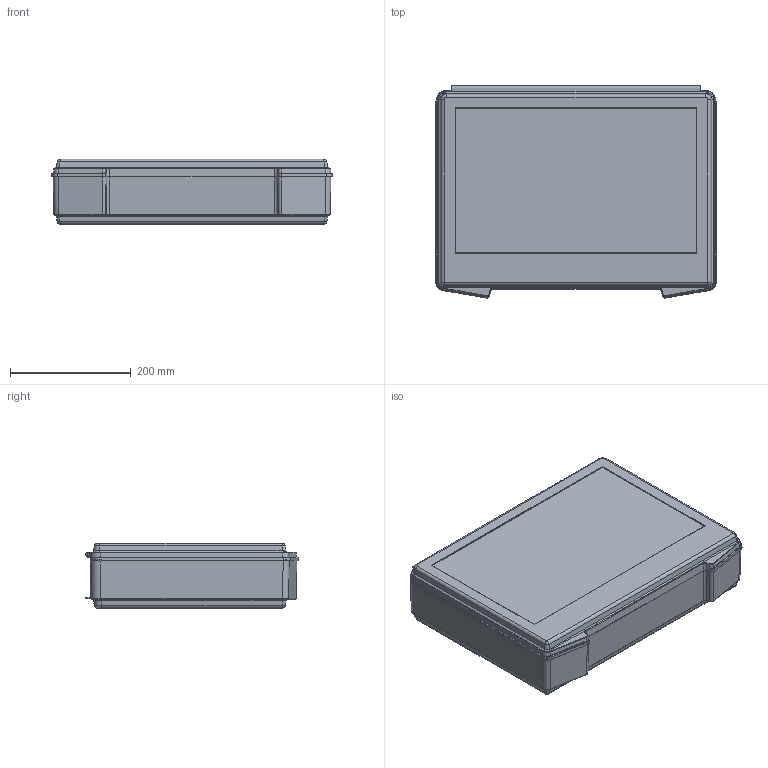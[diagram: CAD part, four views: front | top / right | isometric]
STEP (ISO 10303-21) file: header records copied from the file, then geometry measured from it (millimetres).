
FILE_DESCRIPTION(/* description */ (''),/* implementation_level */ '2;1');
FILE_NAME(/* name */ 'T111_Case_OT-UT.stp',/* time_stamp */ '2014-10-06T09:33:21+02:00',/* author */ (''),/* organization */ (''),/* preprocessor_version */ 'ST-DEVELOPER v15',/* originating_system */ 'SIEMENS PLM Software NX 8.5',/* authorisation */ '');
FILE_SCHEMA (('AUTOMOTIVE_DESIGN { 1 0 10303 214 3 1 1 1 }'));
Length unit declared in the file: millimetre
Products named in the file (1): pk1A9099730gu5
Bounding box: 464 x 351.67 x 108.2 mm (x, y, z)
Volume: 1326596.7 mm3; surface area: 939238.4 mm2
Topology: 2 solids, 2 shells, 554 faces, 1359 edges, 801 vertices
Faces by surface type: cylinder 218, plane 182, bspline 122, torus 16, sphere 14, cone 2
Full cylindrical faces by diameter (mm): 4 x1
Entity records: 18037 total; most frequent: CARTESIAN_POINT 5683, ORIENTED_EDGE 2684, DIRECTION 2493, EDGE_CURVE 1342, AXIS2_PLACEMENT_3D 901, VERTEX_POINT 804, LINE 691, VECTOR 691
